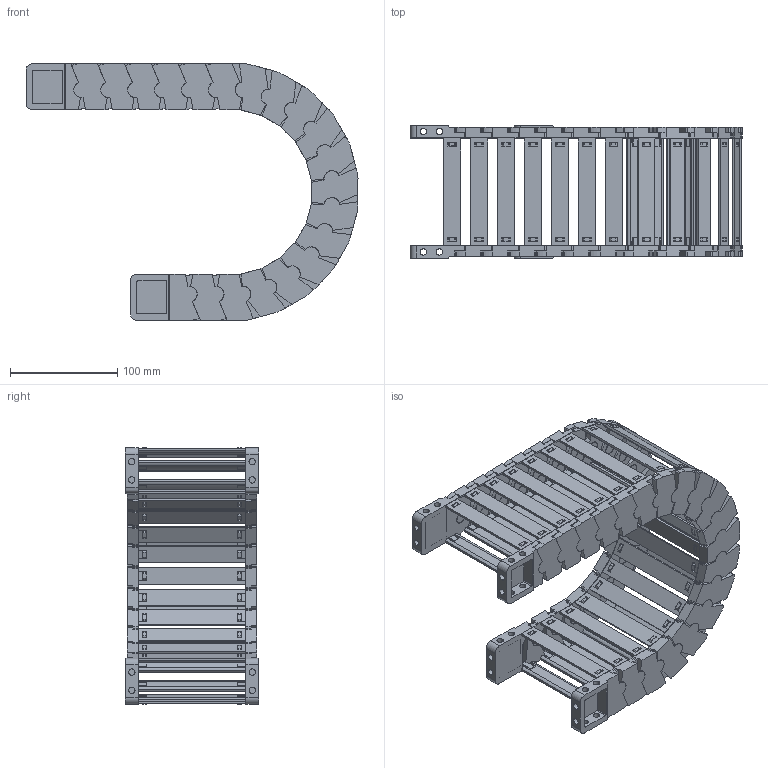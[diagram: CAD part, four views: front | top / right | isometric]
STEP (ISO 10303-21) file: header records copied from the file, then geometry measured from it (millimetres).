
FILE_DESCRIPTION((''),'2;1');
FILE_NAME('JY-35X100-R100_ASM','2026-05-07T15:21:33',('admin'),(''),'CREO PARAMETRIC BY PTC INC, 2021023','CREO PARAMETRIC BY PTC INC, 2021023','');
FILE_SCHEMA(('CONFIG_CONTROL_DESIGN'));
Length unit declared in the file: millimetre
Products named in the file (11): 35XL-L; 25-35XL-YP; 35XL-R; ASM0001_ASM; 35-LTT-A-L; 35-LTT-A-R; 35XL-LTT-A_ASM; 35-LTT-B-L; 35-LTT-B-R; 35XL-LTT-B_ASM; JY-35X100-R100_ASM
Assembly tree (33 placements, depth 3):
  JY-35X100-R100_ASM
    ASM0001_ASM  x19
      35XL-L
      25-35XL-YP
      35XL-R
    35XL-LTT-A_ASM
      35-LTT-A-L
      25-35XL-YP  x2
      35-LTT-A-R
    35XL-LTT-B_ASM
      35-LTT-B-L
      25-35XL-YP  x2
      35-LTT-B-R
Bounding box: 310.13 x 124.6 x 239.89 mm (x, y, z)
Volume: 653937.3 mm3; surface area: 407766.6 mm2
Topology: 84 solids, 84 shells, 4366 faces, 12770 edges, 8536 vertices
Faces by surface type: plane 3318, cylinder 1044, bspline 4
Entity records: 17160 total; most frequent: CARTESIAN_POINT 3192, ORIENTED_EDGE 2876, DIRECTION 2864, EDGE_CURVE 1438, VECTOR 1056, LINE 1056, VERTEX_POINT 964, AXIS2_PLACEMENT_3D 904
